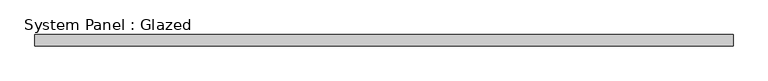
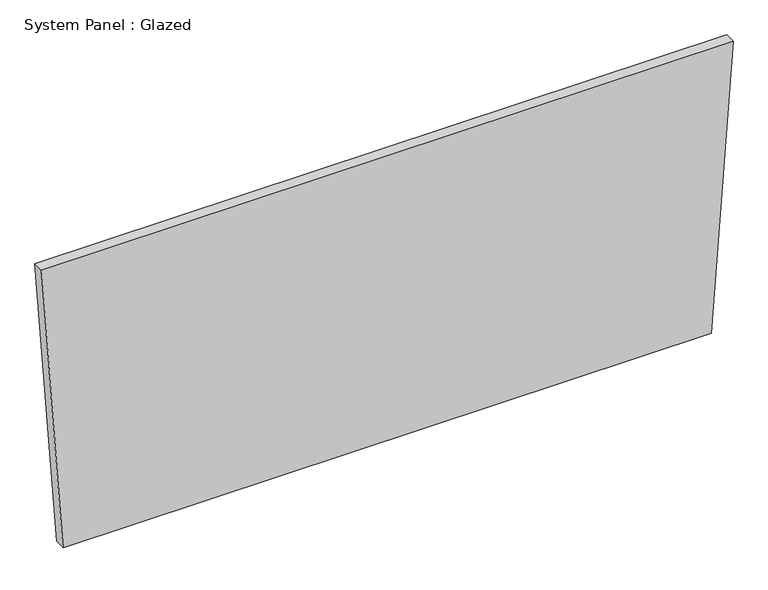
"""IFC4 building model written with IfcOpenShell, lengths in millimetres: plate geometry, System Panel : Glazed."""

from ifc_helpers import new_model, si_unit, frame, origin, place, context, project, spatial, polyline, outline, extrude, source, transform, mapped, element, save


def system_panel_glazed_807822bf(model_context):
    return source(origin(), model_context, "Body", "SweptSolid", [
        extrude(outline(polyline([(0.0, -735.3984378), (0.000364, 735.398436), (682.5046051, 784.4912953), (682.5042168, -784.4912953), (0.0, -735.3984378)])), frame((0.0, 19.05, 0.0), z_axis=(0.0, 1.0, 0.0), x_axis=(0.0, 0.0, 1.0)), (0.0, 0.0, 1.0), 25.4),
    ])


if __name__ == "__main__":
    model = new_model("IFC4")
    model_context = context("Model", 3, world=origin())
    ifc_project = project(units=[si_unit("LENGTHUNIT", "METRE", prefix="MILLI")], contexts=[model_context])
    site = spatial("IfcSite", under=ifc_project)
    building = spatial("IfcBuilding", under=site)
    placement = place(None, origin())
    system_panel_glazed_shape = system_panel_glazed_807822bf(model_context)
    element("IfcPlate", 1, ObjectType="System Panel : Glazed", at=placement, inside=building, context=model_context, shape_type="MappedRepresentation", body=[
        mapped(system_panel_glazed_shape, transform((0.0, 0.0, 0.0), x_axis=(1.0, 0.0, 0.0), y_axis=(0.0, 1.0, 0.0), z_axis=(0.0, 0.0, 1.0))),
    ])
    save(model, "model.ifc")
